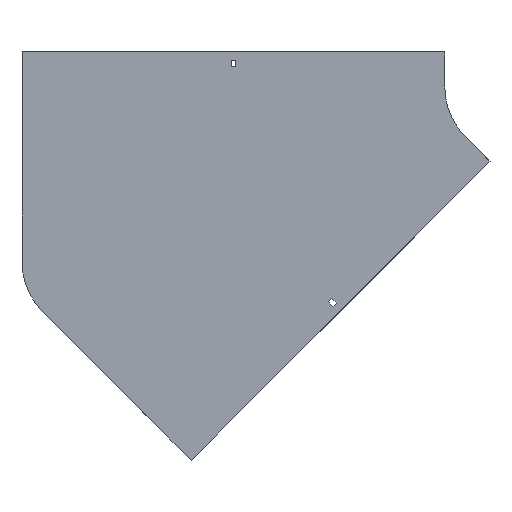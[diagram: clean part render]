
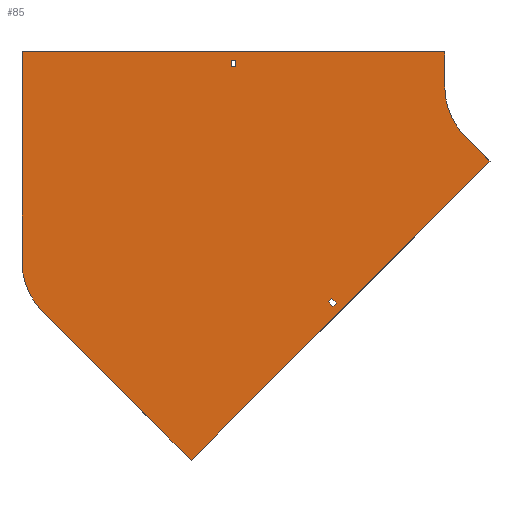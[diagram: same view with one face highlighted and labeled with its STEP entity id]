
A CAD part, front view. The second image highlights one B-rep face of the part: STEP entity #85.
In plain terms, the highlighted planar face has unit normal (0, -1, 0).
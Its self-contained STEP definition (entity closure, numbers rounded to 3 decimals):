
#7 = ORIENTED_EDGE ( 'NONE', *, *, #573, .F. ) ;
#9 = CARTESIAN_POINT ( 'NONE',  ( -462.448, 0., -533.159 ) ) ;
#12 = EDGE_CURVE ( 'NONE', #769, #1205, #888, .T. ) ;
#21 = VECTOR ( 'NONE', #1253, 1000. ) ;
#22 = EDGE_CURVE ( 'NONE', #395, #769, #595, .T. ) ;
#58 = CARTESIAN_POINT ( 'NONE',  ( -704., 0., 50. ) ) ;
#64 = CARTESIAN_POINT ( 'NONE',  ( -405.25, 0., 38. ) ) ;
#69 = CARTESIAN_POINT ( 'NONE',  ( -462.448, 0., -533.159 ) ) ;
#70 = AXIS2_PLACEMENT_3D ( 'NONE', #490, #1356, #1243 ) ;
#77 = VECTOR ( 'NONE', #501, 1000. ) ;
#85 = ADVANCED_FACE ( 'NONE', ( #796, #804, #255 ), #698, .T. ) ;
#109 = CARTESIAN_POINT ( 'NONE',  ( -100., 0., 50. ) ) ;
#116 = VERTEX_POINT ( 'NONE', #1283 ) ;
#137 = LINE ( 'NONE', #904, #1222 ) ;
#143 = DIRECTION ( 'NONE',  ( 0., -1., 0. ) ) ;
#160 = EDGE_CURVE ( 'NONE', #309, #794, #702, .T. ) ;
#173 = LINE ( 'NONE', #939, #21 ) ;
#177 = VECTOR ( 'NONE', #333, 1000. ) ;
#179 = VECTOR ( 'NONE', #1262, 1000. ) ;
#184 = VERTEX_POINT ( 'NONE', #265 ) ;
#188 = EDGE_CURVE ( 'NONE', #116, #594, #503, .T. ) ;
#197 = LINE ( 'NONE', #406, #638 ) ;
#201 = ORIENTED_EDGE ( 'NONE', *, *, #673, .T. ) ;
#202 = LINE ( 'NONE', #1061, #1043 ) ;
#207 = VECTOR ( 'NONE', #979, 1000. ) ;
#213 = EDGE_CURVE ( 'NONE', #1393, #309, #1337, .T. ) ;
#220 = VERTEX_POINT ( 'NONE', #514 ) ;
#234 = CARTESIAN_POINT ( 'NONE',  ( -405.25, 0., 29. ) ) ;
#237 = VERTEX_POINT ( 'NONE', #1341 ) ;
#247 = VECTOR ( 'NONE', #1290, 1000. ) ;
#255 = FACE_BOUND ( 'NONE', #322, .T. ) ;
#265 = CARTESIAN_POINT ( 'NONE',  ( -70.711, 0., -70.711 ) ) ;
#270 = EDGE_CURVE ( 'NONE', #237, #184, #499, .T. ) ;
#273 = CARTESIAN_POINT ( 'NONE',  ( -266.049, 0., -307.061 ) ) ;
#277 = VERTEX_POINT ( 'NONE', #390 ) ;
#309 = VERTEX_POINT ( 'NONE', #807 ) ;
#322 = EDGE_LOOP ( 'NONE', ( #665, #520, #360, #1378 ) ) ;
#333 = DIRECTION ( 'NONE',  ( -1., 0., 0. ) ) ;
#360 = ORIENTED_EDGE ( 'NONE', *, *, #814, .F. ) ;
#377 = EDGE_CURVE ( 'NONE', #184, #116, #173, .T. ) ;
#390 = CARTESIAN_POINT ( 'NONE',  ( -398.75, 0., 38. ) ) ;
#391 = VECTOR ( 'NONE', #669, 1000. ) ;
#395 = VERTEX_POINT ( 'NONE', #1118 ) ;
#406 = CARTESIAN_POINT ( 'NONE',  ( -261.453, 0., -302.465 ) ) ;
#419 = CARTESIAN_POINT ( 'NONE',  ( -266.049, 0., -307.061 ) ) ;
#438 = VERTEX_POINT ( 'NONE', #109 ) ;
#475 = VECTOR ( 'NONE', #1192, 1000. ) ;
#477 = CARTESIAN_POINT ( 'NONE',  ( 0., 0., 0. ) ) ;
#480 = VERTEX_POINT ( 'NONE', #1093 ) ;
#490 = CARTESIAN_POINT ( 'NONE',  ( 0., 0., 0. ) ) ;
#499 = CIRCLE ( 'NONE', #70, 100. ) ;
#501 = DIRECTION ( 'NONE',  ( 1., 0., 0. ) ) ;
#503 = LINE ( 'NONE', #829, #973 ) ;
#514 = CARTESIAN_POINT ( 'NONE',  ( -261.453, 0., -302.465 ) ) ;
#520 = ORIENTED_EDGE ( 'NONE', *, *, #1155, .F. ) ;
#522 = VERTEX_POINT ( 'NONE', #671 ) ;
#529 = CARTESIAN_POINT ( 'NONE',  ( -704., 0., 50. ) ) ;
#540 = AXIS2_PLACEMENT_3D ( 'NONE', #477, #143, #585 ) ;
#545 = CARTESIAN_POINT ( 'NONE',  ( -405.25, 0., 38. ) ) ;
#551 = EDGE_CURVE ( 'NONE', #1205, #277, #656, .T. ) ;
#573 = EDGE_CURVE ( 'NONE', #794, #438, #1029, .T. ) ;
#582 = CARTESIAN_POINT ( 'NONE',  ( -398.75, 0., 29. ) ) ;
#585 = DIRECTION ( 'NONE',  ( 0., 0., -1. ) ) ;
#594 = VERTEX_POINT ( 'NONE', #69 ) ;
#595 = LINE ( 'NONE', #994, #177 ) ;
#624 = DIRECTION ( 'NONE',  ( 0., 0., 1. ) ) ;
#638 = VECTOR ( 'NONE', #940, 1000. ) ;
#656 = LINE ( 'NONE', #545, #207 ) ;
#665 = ORIENTED_EDGE ( 'NONE', *, *, #809, .F. ) ;
#667 = ORIENTED_EDGE ( 'NONE', *, *, #12, .T. ) ;
#669 = DIRECTION ( 'NONE',  ( 0., 0., -1. ) ) ;
#671 = CARTESIAN_POINT ( 'NONE',  ( -255.089, 0., -308.829 ) ) ;
#673 = EDGE_CURVE ( 'NONE', #277, #395, #692, .T. ) ;
#689 = DIRECTION ( 'NONE',  ( 0., 0., 1. ) ) ;
#692 = LINE ( 'NONE', #582, #391 ) ;
#698 = PLANE ( 'NONE',  #540 ) ;
#702 = LINE ( 'NONE', #817, #179 ) ;
#712 = DIRECTION ( 'NONE',  ( 0., 0., -1. ) ) ;
#746 = LINE ( 'NONE', #273, #1241 ) ;
#755 = VECTOR ( 'NONE', #689, 1000. ) ;
#769 = VERTEX_POINT ( 'NONE', #1068 ) ;
#794 = VERTEX_POINT ( 'NONE', #529 ) ;
#796 = FACE_BOUND ( 'NONE', #1050, .T. ) ;
#804 = FACE_OUTER_BOUND ( 'NONE', #858, .T. ) ;
#806 = DIRECTION ( 'NONE',  ( 0., 1., 0. ) ) ;
#807 = CARTESIAN_POINT ( 'NONE',  ( -704., 0., -250.185 ) ) ;
#809 = EDGE_CURVE ( 'NONE', #480, #522, #202, .T. ) ;
#814 = EDGE_CURVE ( 'NONE', #220, #1272, #1394, .T. ) ;
#817 = CARTESIAN_POINT ( 'NONE',  ( -704., 0., -250.185 ) ) ;
#829 = CARTESIAN_POINT ( 'NONE',  ( -35.355, 0., -106.066 ) ) ;
#834 = ORIENTED_EDGE ( 'NONE', *, *, #160, .F. ) ;
#857 = CARTESIAN_POINT ( 'NONE',  ( -266.049, 0., -307.061 ) ) ;
#858 = EDGE_LOOP ( 'NONE', ( #7, #834, #1136, #948, #1346, #1184, #951, #1055 ) ) ;
#888 = LINE ( 'NONE', #234, #755 ) ;
#904 = CARTESIAN_POINT ( 'NONE',  ( -100., 0., 50. ) ) ;
#939 = CARTESIAN_POINT ( 'NONE',  ( -70.711, 0., -70.711 ) ) ;
#940 = DIRECTION ( 'NONE',  ( -0.707, 0., 0.707 ) ) ;
#948 = ORIENTED_EDGE ( 'NONE', *, *, #1326, .F. ) ;
#951 = ORIENTED_EDGE ( 'NONE', *, *, #270, .F. ) ;
#963 = DIRECTION ( 'NONE',  ( 0.707, 0., 0.707 ) ) ;
#973 = VECTOR ( 'NONE', #1140, 1000. ) ;
#979 = DIRECTION ( 'NONE',  ( 1., 0., 0. ) ) ;
#986 = EDGE_CURVE ( 'NONE', #438, #237, #137, .T. ) ;
#994 = CARTESIAN_POINT ( 'NONE',  ( -405.25, 0., 29. ) ) ;
#1015 = CARTESIAN_POINT ( 'NONE',  ( -604., 0., -250.185 ) ) ;
#1029 = LINE ( 'NONE', #58, #77 ) ;
#1040 = AXIS2_PLACEMENT_3D ( 'NONE', #1015, #806, #624 ) ;
#1043 = VECTOR ( 'NONE', #963, 1000. ) ;
#1050 = EDGE_LOOP ( 'NONE', ( #667, #1073, #201, #1332 ) ) ;
#1055 = ORIENTED_EDGE ( 'NONE', *, *, #986, .F. ) ;
#1061 = CARTESIAN_POINT ( 'NONE',  ( -259.685, 0., -313.425 ) ) ;
#1068 = CARTESIAN_POINT ( 'NONE',  ( -405.25, 0., 29. ) ) ;
#1073 = ORIENTED_EDGE ( 'NONE', *, *, #551, .T. ) ;
#1093 = CARTESIAN_POINT ( 'NONE',  ( -259.685, 0., -313.425 ) ) ;
#1118 = CARTESIAN_POINT ( 'NONE',  ( -398.75, 0., 29. ) ) ;
#1136 = ORIENTED_EDGE ( 'NONE', *, *, #213, .F. ) ;
#1140 = DIRECTION ( 'NONE',  ( -0.707, 0., -0.707 ) ) ;
#1155 = EDGE_CURVE ( 'NONE', #1272, #480, #746, .T. ) ;
#1169 = EDGE_CURVE ( 'NONE', #522, #220, #197, .T. ) ;
#1184 = ORIENTED_EDGE ( 'NONE', *, *, #377, .F. ) ;
#1192 = DIRECTION ( 'NONE',  ( -0.707, 0., 0.707 ) ) ;
#1205 = VERTEX_POINT ( 'NONE', #64 ) ;
#1222 = VECTOR ( 'NONE', #712, 1000. ) ;
#1241 = VECTOR ( 'NONE', #1376, 1000. ) ;
#1243 = DIRECTION ( 'NONE',  ( 0., 0., -1. ) ) ;
#1253 = DIRECTION ( 'NONE',  ( 0.707, 0., -0.707 ) ) ;
#1262 = DIRECTION ( 'NONE',  ( 0., 0., 1. ) ) ;
#1272 = VERTEX_POINT ( 'NONE', #857 ) ;
#1283 = CARTESIAN_POINT ( 'NONE',  ( -35.355, 0., -106.066 ) ) ;
#1290 = DIRECTION ( 'NONE',  ( -0.707, 0., -0.707 ) ) ;
#1304 = LINE ( 'NONE', #9, #475 ) ;
#1322 = CARTESIAN_POINT ( 'NONE',  ( -674.711, 0., -320.896 ) ) ;
#1326 = EDGE_CURVE ( 'NONE', #594, #1393, #1304, .T. ) ;
#1332 = ORIENTED_EDGE ( 'NONE', *, *, #22, .T. ) ;
#1337 = CIRCLE ( 'NONE', #1040, 100. ) ;
#1341 = CARTESIAN_POINT ( 'NONE',  ( -100., 0., 0. ) ) ;
#1346 = ORIENTED_EDGE ( 'NONE', *, *, #188, .F. ) ;
#1356 = DIRECTION ( 'NONE',  ( 0., -1., 0. ) ) ;
#1376 = DIRECTION ( 'NONE',  ( 0.707, 0., -0.707 ) ) ;
#1378 = ORIENTED_EDGE ( 'NONE', *, *, #1169, .F. ) ;
#1393 = VERTEX_POINT ( 'NONE', #1322 ) ;
#1394 = LINE ( 'NONE', #419, #247 ) ;
